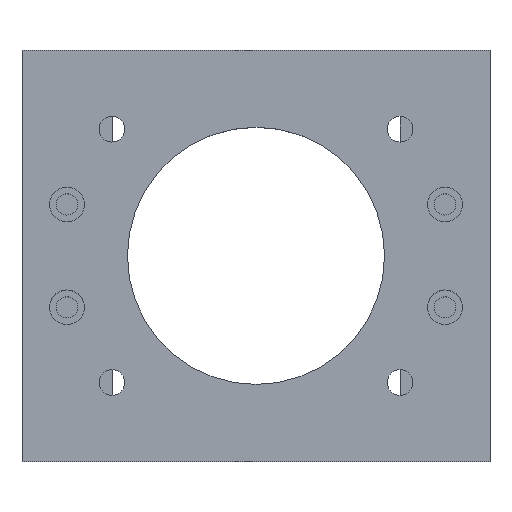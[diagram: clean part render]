
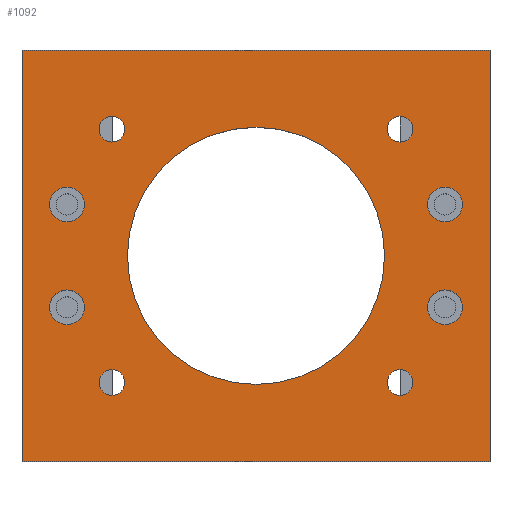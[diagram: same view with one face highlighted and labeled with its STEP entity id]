
A CAD part, top view. The second image highlights one B-rep face of the part: STEP entity #1092.
In plain terms, the highlighted planar face has unit normal (0, 0, 1).
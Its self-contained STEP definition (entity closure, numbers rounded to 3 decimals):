
#48=FACE_BOUND('',#401,.T.);
#49=FACE_BOUND('',#402,.T.);
#50=FACE_BOUND('',#403,.T.);
#51=FACE_BOUND('',#404,.T.);
#52=FACE_BOUND('',#405,.T.);
#53=FACE_BOUND('',#406,.T.);
#54=FACE_BOUND('',#407,.T.);
#55=FACE_BOUND('',#408,.T.);
#56=FACE_BOUND('',#409,.T.);
#155=LINE('',#1802,#260);
#159=LINE('',#1809,#264);
#162=LINE('',#1815,#267);
#166=LINE('',#1820,#271);
#260=VECTOR('',#1496,10.);
#264=VECTOR('',#1502,10.);
#267=VECTOR('',#1507,10.);
#271=VECTOR('',#1513,10.);
#329=FACE_OUTER_BOUND('',#400,.T.);
#400=EDGE_LOOP('',(#967,#968,#969,#970));
#401=EDGE_LOOP('',(#971));
#402=EDGE_LOOP('',(#972));
#403=EDGE_LOOP('',(#973));
#404=EDGE_LOOP('',(#974));
#405=EDGE_LOOP('',(#975));
#406=EDGE_LOOP('',(#976));
#407=EDGE_LOOP('',(#977));
#408=EDGE_LOOP('',(#978));
#409=EDGE_LOOP('',(#979));
#436=CIRCLE('',#1165,6.75);
#439=CIRCLE('',#1170,6.75);
#442=CIRCLE('',#1175,6.75);
#445=CIRCLE('',#1180,6.75);
#448=CIRCLE('',#1185,5.);
#450=CIRCLE('',#1188,5.);
#452=CIRCLE('',#1192,5.);
#454=CIRCLE('',#1195,5.);
#456=CIRCLE('',#1199,50.);
#526=VERTEX_POINT('',#1722);
#529=VERTEX_POINT('',#1731);
#532=VERTEX_POINT('',#1740);
#535=VERTEX_POINT('',#1749);
#538=VERTEX_POINT('',#1758);
#540=VERTEX_POINT('',#1764);
#542=VERTEX_POINT('',#1772);
#544=VERTEX_POINT('',#1778);
#546=VERTEX_POINT('',#1786);
#550=VERTEX_POINT('',#1799);
#551=VERTEX_POINT('',#1801);
#553=VERTEX_POINT('',#1808);
#555=VERTEX_POINT('',#1814);
#654=EDGE_CURVE('',#526,#526,#436,.T.);
#658=EDGE_CURVE('',#529,#529,#439,.T.);
#662=EDGE_CURVE('',#532,#532,#442,.T.);
#666=EDGE_CURVE('',#535,#535,#445,.T.);
#670=EDGE_CURVE('',#538,#538,#448,.T.);
#673=EDGE_CURVE('',#540,#540,#450,.T.);
#677=EDGE_CURVE('',#542,#542,#452,.T.);
#680=EDGE_CURVE('',#544,#544,#454,.T.);
#684=EDGE_CURVE('',#546,#546,#456,.T.);
#691=EDGE_CURVE('',#551,#550,#155,.T.);
#695=EDGE_CURVE('',#553,#551,#159,.T.);
#698=EDGE_CURVE('',#555,#553,#162,.T.);
#702=EDGE_CURVE('',#550,#555,#166,.T.);
#967=ORIENTED_EDGE('',*,*,#702,.T.);
#968=ORIENTED_EDGE('',*,*,#698,.T.);
#969=ORIENTED_EDGE('',*,*,#695,.T.);
#970=ORIENTED_EDGE('',*,*,#691,.T.);
#971=ORIENTED_EDGE('',*,*,#654,.T.);
#972=ORIENTED_EDGE('',*,*,#658,.T.);
#973=ORIENTED_EDGE('',*,*,#662,.T.);
#974=ORIENTED_EDGE('',*,*,#666,.T.);
#975=ORIENTED_EDGE('',*,*,#684,.T.);
#976=ORIENTED_EDGE('',*,*,#680,.T.);
#977=ORIENTED_EDGE('',*,*,#677,.T.);
#978=ORIENTED_EDGE('',*,*,#673,.T.);
#979=ORIENTED_EDGE('',*,*,#670,.T.);
#1033=PLANE('',#1207);
#1092=ADVANCED_FACE('',(#329,#48,#49,#50,#51,#52,#53,#54,#55,#56),#1033,
 .T.);
#1165=AXIS2_PLACEMENT_3D('',#1723,#1403,#1404);
#1170=AXIS2_PLACEMENT_3D('',#1732,#1414,#1415);
#1175=AXIS2_PLACEMENT_3D('',#1741,#1425,#1426);
#1180=AXIS2_PLACEMENT_3D('',#1750,#1436,#1437);
#1185=AXIS2_PLACEMENT_3D('',#1759,#1447,#1448);
#1188=AXIS2_PLACEMENT_3D('',#1765,#1454,#1455);
#1192=AXIS2_PLACEMENT_3D('',#1773,#1464,#1465);
#1195=AXIS2_PLACEMENT_3D('',#1779,#1471,#1472);
#1199=AXIS2_PLACEMENT_3D('',#1787,#1481,#1482);
#1207=AXIS2_PLACEMENT_3D('',#1821,#1514,#1515);
#1403=DIRECTION('center_axis',(0.,0.,-1.));
#1404=DIRECTION('ref_axis',(1.,0.,0.));
#1414=DIRECTION('center_axis',(0.,0.,-1.));
#1415=DIRECTION('ref_axis',(1.,0.,0.));
#1425=DIRECTION('center_axis',(0.,0.,-1.));
#1426=DIRECTION('ref_axis',(1.,0.,0.));
#1436=DIRECTION('center_axis',(0.,0.,-1.));
#1437=DIRECTION('ref_axis',(1.,0.,0.));
#1447=DIRECTION('center_axis',(0.,0.,-1.));
#1448=DIRECTION('ref_axis',(1.,0.,0.));
#1454=DIRECTION('center_axis',(0.,0.,-1.));
#1455=DIRECTION('ref_axis',(1.,0.,0.));
#1464=DIRECTION('center_axis',(0.,0.,-1.));
#1465=DIRECTION('ref_axis',(1.,0.,0.));
#1471=DIRECTION('center_axis',(0.,0.,-1.));
#1472=DIRECTION('ref_axis',(1.,0.,0.));
#1481=DIRECTION('center_axis',(0.,0.,-1.));
#1482=DIRECTION('ref_axis',(1.,0.,0.));
#1496=DIRECTION('',(-1.,0.,0.));
#1502=DIRECTION('',(0.,1.,0.));
#1507=DIRECTION('',(1.,0.,0.));
#1513=DIRECTION('',(0.,-1.,0.));
#1514=DIRECTION('center_axis',(0.,0.,1.));
#1515=DIRECTION('ref_axis',(1.,0.,0.));
#1722=CARTESIAN_POINT('',(10.75,60.,14.));
#1723=CARTESIAN_POINT('Origin',(17.5,60.,14.));
#1731=CARTESIAN_POINT('',(157.75,60.,14.));
#1732=CARTESIAN_POINT('Origin',(164.5,60.,14.));
#1740=CARTESIAN_POINT('',(10.75,100.,14.));
#1741=CARTESIAN_POINT('Origin',(17.5,100.,14.));
#1749=CARTESIAN_POINT('',(157.75,100.,14.));
#1750=CARTESIAN_POINT('Origin',(164.5,100.,14.));
#1758=CARTESIAN_POINT('',(29.963,129.263,14.));
#1759=CARTESIAN_POINT('Origin',(34.963,129.263,14.));
#1764=CARTESIAN_POINT('',(142.037,30.737,14.));
#1765=CARTESIAN_POINT('Origin',(147.037,30.737,14.));
#1772=CARTESIAN_POINT('',(29.963,30.737,14.));
#1773=CARTESIAN_POINT('Origin',(34.963,30.737,14.));
#1778=CARTESIAN_POINT('',(142.037,129.263,14.));
#1779=CARTESIAN_POINT('Origin',(147.037,129.263,14.));
#1786=CARTESIAN_POINT('',(41.,80.,14.));
#1787=CARTESIAN_POINT('Origin',(91.,80.,14.));
#1799=CARTESIAN_POINT('',(0.,160.,14.));
#1801=CARTESIAN_POINT('',(182.,160.,14.));
#1802=CARTESIAN_POINT('',(182.,160.,14.));
#1808=CARTESIAN_POINT('',(182.,0.,14.));
#1809=CARTESIAN_POINT('',(182.,0.,14.));
#1814=CARTESIAN_POINT('',(0.,0.,14.));
#1815=CARTESIAN_POINT('',(0.,0.,14.));
#1820=CARTESIAN_POINT('',(0.,160.,14.));
#1821=CARTESIAN_POINT('Origin',(91.,80.,14.));
